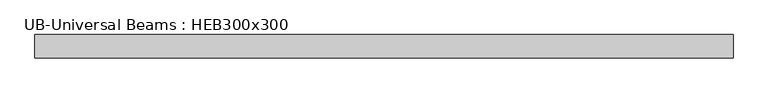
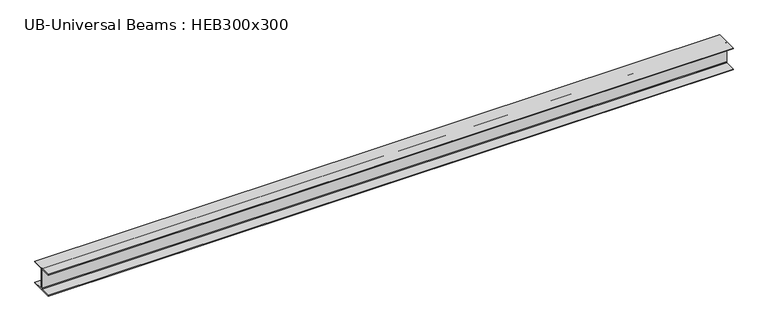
"""IFC4 building model written with IfcOpenShell, lengths in millimetres: beam geometry, UB-Universal Beams : HEB300x300."""

from ifc_helpers import new_model, si_unit, point, frame, frame_2d, origin, place, context, project, spatial, polyline, circle_curve, trimmed, segment, composite_curve, outline, extrude, source, transform, mapped, element, save


def ub_universal_beams_heb300x300_9e54a293(model_context):
    return source(origin(), model_context, "Body", "SweptSolid", [
        extrude(outline(composite_curve([segment(polyline([(-150.0, -139.8), (-11.9, -139.8)]), True, "CONTINUOUS"), segment(trimmed(circle_curve(frame_2d((-11.9, -130.9)), 8.9), [point((-11.9, -139.8))], [point((-3.0, -130.9))], True, "CARTESIAN"), True, "CONTINUOUS"), segment(polyline([(-3.0, -130.9), (-3.0, 130.9)]), True, "CONTINUOUS"), segment(trimmed(circle_curve(frame_2d((-11.9, 130.9)), 8.9), [point((-3.0, 130.9))], [point((-11.9, 139.8))], True, "CARTESIAN"), True, "CONTINUOUS"), segment(polyline([(-11.9, 139.8), (-150.0, 139.8), (-150.0, 150.0), (150.0, 150.0), (150.0, 139.8), (11.9, 139.8)]), True, "CONTINUOUS"), segment(trimmed(circle_curve(frame_2d((11.9, 130.9)), 8.9), [point((11.9, 139.8))], [point((3.0, 130.9))], True, "CARTESIAN"), True, "CONTINUOUS"), segment(polyline([(3.0, 130.9), (3.0, -130.9)]), True, "CONTINUOUS"), segment(trimmed(circle_curve(frame_2d((11.9, -130.9)), 8.9), [point((3.0, -130.9))], [point((11.9, -139.8))], True, "CARTESIAN"), True, "CONTINUOUS"), segment(polyline([(11.9, -139.8), (150.0, -139.8), (150.0, -150.0), (-150.0, -150.0), (-150.0, -139.8)]), True, "CONTINUOUS")], self_intersect=False)), frame((-4698.7, 0.0, 0.0), z_axis=(1.0, 0.0, 0.0), x_axis=(0.0, 1.0, 0.0)), (0.0, 0.0, 1.0), 8959.7),
    ])


if __name__ == "__main__":
    model = new_model("IFC4")
    model_context = context("Model", 3, world=origin())
    ifc_project = project(units=[si_unit("LENGTHUNIT", "METRE", prefix="MILLI")], contexts=[model_context])
    site = spatial("IfcSite", under=ifc_project)
    building = spatial("IfcBuilding", under=site)
    placement = place(None, origin())
    ub_universal_beams_heb300x300_shape = ub_universal_beams_heb300x300_9e54a293(model_context)
    element("IfcBeam", 1, ObjectType="UB-Universal Beams : HEB300x300", at=placement, inside=building, context=model_context, shape_type="MappedRepresentation", body=[
        mapped(ub_universal_beams_heb300x300_shape, transform((0.0, 0.0, 0.0), x_axis=(1.0, 0.0, 0.0), y_axis=(0.0, 1.0, 0.0), z_axis=(0.0, 0.0, 1.0))),
    ])
    save(model, "model.ifc")
